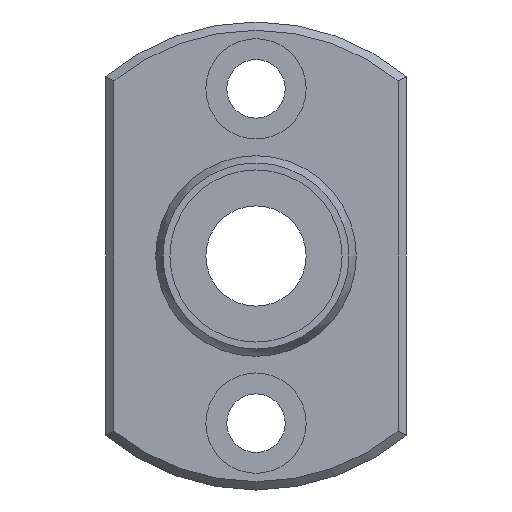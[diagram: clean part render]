
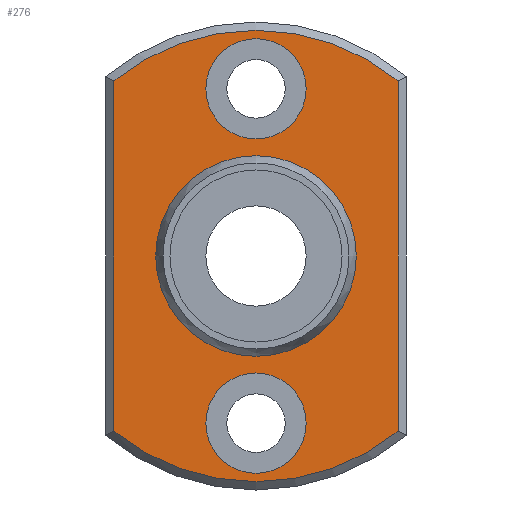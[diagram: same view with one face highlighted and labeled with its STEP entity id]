
A CAD part, left-side view. The second image highlights one B-rep face of the part: STEP entity #276.
In plain terms, the highlighted planar face has unit normal (-1, 0, 0).
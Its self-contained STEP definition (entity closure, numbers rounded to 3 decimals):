
#59=CARTESIAN_POINT('',(15.0,-8.5,10.488));
#60=VERTEX_POINT('',#59);
#68=CARTESIAN_POINT('',(15.0,-8.5,-10.488));
#69=VERTEX_POINT('',#68);
#70=CARTESIAN_POINT('',(15.0,-8.5,10.488));
#71=DIRECTION('',(0.0,0.0,-1.0));
#72=VECTOR('',#71,20.976);
#73=LINE('',#70,#72);
#74=EDGE_CURVE('',#60,#69,#73,.T.);
#101=CARTESIAN_POINT('',(15.0,8.5,-10.488));
#102=VERTEX_POINT('',#101);
#103=CARTESIAN_POINT('',(15.0,0.0,0.0));
#104=DIRECTION('',(1.0,0.0,0.0));
#105=DIRECTION('',(0.0,0.0,-1.0));
#106=AXIS2_PLACEMENT_3D('',#103,#104,#105);
#107=CIRCLE('',#106,13.5);
#108=EDGE_CURVE('',#69,#102,#107,.T.);
#134=CARTESIAN_POINT('',(15.0,8.5,10.488));
#135=VERTEX_POINT('',#134);
#136=CARTESIAN_POINT('',(15.0,8.5,-10.488));
#137=DIRECTION('',(0.0,0.0,1.0));
#138=VECTOR('',#137,20.976);
#139=LINE('',#136,#138);
#140=EDGE_CURVE('',#102,#135,#139,.T.);
#165=CARTESIAN_POINT('',(15.0,0.0,0.0));
#166=DIRECTION('',(1.0,0.0,0.0));
#167=DIRECTION('',(0.0,0.0,1.0));
#168=AXIS2_PLACEMENT_3D('',#165,#166,#167);
#169=CIRCLE('',#168,13.5);
#170=EDGE_CURVE('',#135,#60,#169,.T.);
#232=CARTESIAN_POINT('',(15.0,0.0,9.905));
#233=DIRECTION('',(-1.0,0.0,0.0));
#234=DIRECTION('',(0.0,0.0,1.0));
#235=AXIS2_PLACEMENT_3D('',#232,#233,#234);
#236=PLANE('',#235);
#237=ORIENTED_EDGE('',*,*,#74,.F.);
#238=ORIENTED_EDGE('',*,*,#170,.F.);
#239=ORIENTED_EDGE('',*,*,#140,.F.);
#240=ORIENTED_EDGE('',*,*,#108,.F.);
#241=EDGE_LOOP('',(#237,#238,#239,#240));
#242=FACE_OUTER_BOUND('',#241,.T.);
#243=CARTESIAN_POINT('',(15.,0.0,5.809));
#244=VERTEX_POINT('',#243);
#245=CARTESIAN_POINT('',(15.,0.0,0.0));
#246=DIRECTION('',(-1.0,0.0,0.0));
#247=DIRECTION('',(0.0,0.0,1.0));
#248=AXIS2_PLACEMENT_3D('',#245,#246,#247);
#249=CIRCLE('',#248,5.809);
#250=EDGE_CURVE('',#244,#244,#249,.T.);
#251=ORIENTED_EDGE('',*,*,#250,.F.);
#252=EDGE_LOOP('',(#251));
#253=FACE_BOUND('',#252,.T.);
#254=CARTESIAN_POINT('',(15.0,3.,-10.0));
#255=VERTEX_POINT('',#254);
#256=CARTESIAN_POINT('',(15.0,0.,-10.0));
#257=DIRECTION('',(1.0,0.0,0.0));
#258=DIRECTION('',(0.0,1.0,0.0));
#259=AXIS2_PLACEMENT_3D('',#256,#257,#258);
#260=CIRCLE('',#259,3.);
#261=EDGE_CURVE('',#255,#255,#260,.T.);
#262=ORIENTED_EDGE('',*,*,#261,.T.);
#263=EDGE_LOOP('',(#262));
#264=FACE_BOUND('',#263,.T.);
#265=CARTESIAN_POINT('',(15.0,3.,10.0));
#266=VERTEX_POINT('',#265);
#267=CARTESIAN_POINT('',(15.0,0.,10.0));
#268=DIRECTION('',(1.0,0.0,0.0));
#269=DIRECTION('',(0.0,1.0,0.0));
#270=AXIS2_PLACEMENT_3D('',#267,#268,#269);
#271=CIRCLE('',#270,3.);
#272=EDGE_CURVE('',#266,#266,#271,.T.);
#273=ORIENTED_EDGE('',*,*,#272,.T.);
#274=EDGE_LOOP('',(#273));
#275=FACE_BOUND('',#274,.T.);
#276=ADVANCED_FACE('',(#242,#253,#264,#275),#236,.T.);
